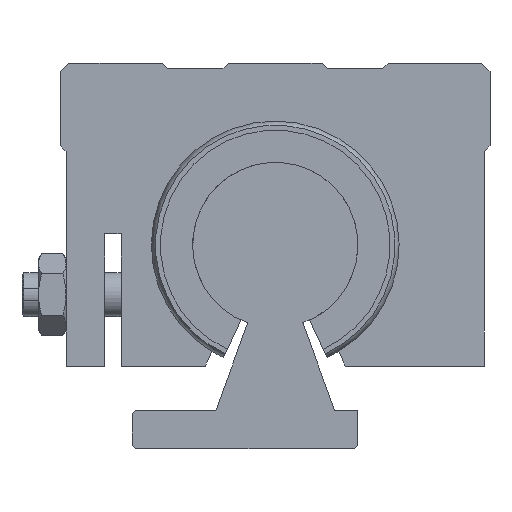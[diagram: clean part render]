
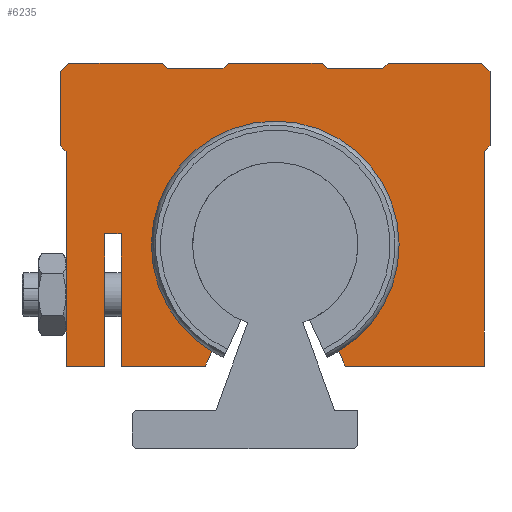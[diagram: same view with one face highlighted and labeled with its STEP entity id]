
A CAD part, left-side view. The second image highlights one B-rep face of the part: STEP entity #6235.
In plain terms, the highlighted planar face has unit normal (-1, 0, 0).
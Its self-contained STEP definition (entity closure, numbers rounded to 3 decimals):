
#4988=CARTESIAN_POINT('',(260.083,-11.5,17.661));
#4989=VERTEX_POINT('',#4988);
#4996=CARTESIAN_POINT('',(260.083,11.5,17.661));
#4997=VERTEX_POINT('',#4996);
#4998=CARTESIAN_POINT('',(260.083,0.0,37.0));
#4999=DIRECTION('',(-1.0,0.0,0.0));
#5000=DIRECTION('',(0.0,-1.0,0.0));
#5001=AXIS2_PLACEMENT_3D('',#4998,#4999,#5000);
#5002=CIRCLE('',#5001,22.5);
#5003=EDGE_CURVE('',#4989,#4997,#5002,.T.);
#5095=CARTESIAN_POINT('',(260.083,-8.5,70.0));
#5096=VERTEX_POINT('',#5095);
#5097=CARTESIAN_POINT('',(260.083,-9.5,69.0));
#5098=VERTEX_POINT('',#5097);
#5099=CARTESIAN_POINT('',(260.083,-8.5,70.0));
#5100=DIRECTION('',(0.0,-0.707,-0.707));
#5101=VECTOR('',#5100,1.414);
#5102=LINE('',#5099,#5101);
#5103=EDGE_CURVE('',#5096,#5098,#5102,.T.);
#5136=CARTESIAN_POINT('',(260.083,-19.5,69.0));
#5137=VERTEX_POINT('',#5136);
#5138=CARTESIAN_POINT('',(260.083,-9.5,69.0));
#5139=DIRECTION('',(0.0,-1.0,0.0));
#5140=VECTOR('',#5139,10.);
#5141=LINE('',#5138,#5140);
#5142=EDGE_CURVE('',#5098,#5137,#5141,.T.);
#5166=CARTESIAN_POINT('',(260.083,20.5,70.0));
#5167=VERTEX_POINT('',#5166);
#5168=CARTESIAN_POINT('',(260.083,19.5,69.0));
#5169=VERTEX_POINT('',#5168);
#5170=CARTESIAN_POINT('',(260.083,20.5,70.0));
#5171=DIRECTION('',(0.0,-0.707,-0.707));
#5172=VECTOR('',#5171,1.414);
#5173=LINE('',#5170,#5172);
#5174=EDGE_CURVE('',#5167,#5169,#5173,.T.);
#5207=CARTESIAN_POINT('',(260.083,9.5,69.0));
#5208=VERTEX_POINT('',#5207);
#5209=CARTESIAN_POINT('',(260.083,19.5,69.0));
#5210=DIRECTION('',(0.0,-1.0,0.0));
#5211=VECTOR('',#5210,10.);
#5212=LINE('',#5209,#5211);
#5213=EDGE_CURVE('',#5169,#5208,#5212,.T.);
#5237=CARTESIAN_POINT('',(260.083,8.5,70.0));
#5238=VERTEX_POINT('',#5237);
#5239=CARTESIAN_POINT('',(260.083,9.5,69.0));
#5240=DIRECTION('',(0.0,-0.707,0.707));
#5241=VECTOR('',#5240,1.414);
#5242=LINE('',#5239,#5241);
#5243=EDGE_CURVE('',#5208,#5238,#5242,.T.);
#5268=CARTESIAN_POINT('',(260.083,-20.5,70.0));
#5269=VERTEX_POINT('',#5268);
#5270=CARTESIAN_POINT('',(260.083,-19.5,69.0));
#5271=DIRECTION('',(0.0,-0.707,0.707));
#5272=VECTOR('',#5271,1.414);
#5273=LINE('',#5270,#5272);
#5274=EDGE_CURVE('',#5137,#5269,#5273,.T.);
#5299=CARTESIAN_POINT('',(260.083,38.,54.0));
#5300=VERTEX_POINT('',#5299);
#5301=CARTESIAN_POINT('',(260.083,39.0,55.0));
#5302=VERTEX_POINT('',#5301);
#5303=CARTESIAN_POINT('',(260.083,38.,54.0));
#5304=DIRECTION('',(0.0,0.707,0.707));
#5305=VECTOR('',#5304,1.414);
#5306=LINE('',#5303,#5305);
#5307=EDGE_CURVE('',#5300,#5302,#5306,.T.);
#5339=CARTESIAN_POINT('',(260.083,-39.0,55.0));
#5340=VERTEX_POINT('',#5339);
#5341=CARTESIAN_POINT('',(260.083,-38.,54.0));
#5342=VERTEX_POINT('',#5341);
#5343=CARTESIAN_POINT('',(260.083,-39.0,55.0));
#5344=DIRECTION('',(0.0,0.707,-0.707));
#5345=VECTOR('',#5344,1.414);
#5346=LINE('',#5343,#5345);
#5347=EDGE_CURVE('',#5340,#5342,#5346,.T.);
#5380=CARTESIAN_POINT('',(260.083,-38.0,15.0));
#5381=VERTEX_POINT('',#5380);
#5382=CARTESIAN_POINT('',(260.083,-38.,54.0));
#5383=DIRECTION('',(0.0,0.0,-1.0));
#5384=VECTOR('',#5383,39.0);
#5385=LINE('',#5382,#5384);
#5386=EDGE_CURVE('',#5342,#5381,#5385,.T.);
#5420=CARTESIAN_POINT('',(260.083,39.0,68.5));
#5421=VERTEX_POINT('',#5420);
#5428=CARTESIAN_POINT('',(260.083,37.5,70.));
#5429=VERTEX_POINT('',#5428);
#5430=CARTESIAN_POINT('',(260.083,39.0,68.5));
#5431=DIRECTION('',(0.0,-0.707,0.707));
#5432=VECTOR('',#5431,2.121);
#5433=LINE('',#5430,#5432);
#5434=EDGE_CURVE('',#5421,#5429,#5433,.T.);
#5458=CARTESIAN_POINT('',(260.083,39.0,55.0));
#5459=DIRECTION('',(0.0,0.0,1.0));
#5460=VECTOR('',#5459,13.5);
#5461=LINE('',#5458,#5460);
#5462=EDGE_CURVE('',#5302,#5421,#5461,.T.);
#5595=CARTESIAN_POINT('',(260.083,-37.5,70.));
#5596=VERTEX_POINT('',#5595);
#5603=CARTESIAN_POINT('',(260.083,-39.0,68.5));
#5604=VERTEX_POINT('',#5603);
#5605=CARTESIAN_POINT('',(260.083,-37.5,70.));
#5606=DIRECTION('',(0.0,-0.707,-0.707));
#5607=VECTOR('',#5606,2.121);
#5608=LINE('',#5605,#5607);
#5609=EDGE_CURVE('',#5596,#5604,#5608,.T.);
#5628=CARTESIAN_POINT('',(260.083,-20.5,70.0));
#5629=DIRECTION('',(0.0,-1.0,0.0));
#5630=VECTOR('',#5629,17.);
#5631=LINE('',#5628,#5630);
#5632=EDGE_CURVE('',#5269,#5596,#5631,.T.);
#5966=CARTESIAN_POINT('',(260.083,38.0,15.0));
#5967=VERTEX_POINT('',#5966);
#5974=CARTESIAN_POINT('',(260.083,38.0,15.0));
#5975=DIRECTION('',(0.0,0.0,1.0));
#5976=VECTOR('',#5975,39.0);
#5977=LINE('',#5974,#5976);
#5978=EDGE_CURVE('',#5967,#5300,#5977,.T.);
#5997=CARTESIAN_POINT('',(260.083,31.,15.));
#5998=VERTEX_POINT('',#5997);
#6005=CARTESIAN_POINT('',(260.083,31.,15.));
#6006=DIRECTION('',(0.0,1.0,0.0));
#6007=VECTOR('',#6006,7.);
#6008=LINE('',#6005,#6007);
#6009=EDGE_CURVE('',#5998,#5967,#6008,.T.);
#6021=CARTESIAN_POINT('',(260.083,31.,39.));
#6022=VERTEX_POINT('',#6021);
#6029=CARTESIAN_POINT('',(260.083,31.,39.));
#6030=DIRECTION('',(0.0,0.0,-1.0));
#6031=VECTOR('',#6030,24.);
#6032=LINE('',#6029,#6031);
#6033=EDGE_CURVE('',#6022,#5998,#6032,.T.);
#6048=CARTESIAN_POINT('',(260.083,28.,39.));
#6049=VERTEX_POINT('',#6048);
#6056=CARTESIAN_POINT('',(260.083,28.,39.));
#6057=DIRECTION('',(0.0,1.0,0.0));
#6058=VECTOR('',#6057,3.);
#6059=LINE('',#6056,#6058);
#6060=EDGE_CURVE('',#6049,#6022,#6059,.T.);
#6072=CARTESIAN_POINT('',(260.083,28.,15.));
#6073=VERTEX_POINT('',#6072);
#6080=CARTESIAN_POINT('',(260.083,28.,15.));
#6081=DIRECTION('',(0.0,0.0,1.0));
#6082=VECTOR('',#6081,24.);
#6083=LINE('',#6080,#6082);
#6084=EDGE_CURVE('',#6073,#6049,#6083,.T.);
#6099=CARTESIAN_POINT('',(260.083,12.741,15.));
#6100=VERTEX_POINT('',#6099);
#6107=CARTESIAN_POINT('',(260.083,12.741,15.));
#6108=DIRECTION('',(0.0,1.0,0.0));
#6109=VECTOR('',#6108,15.259);
#6110=LINE('',#6107,#6109);
#6111=EDGE_CURVE('',#6100,#6073,#6110,.T.);
#6130=CARTESIAN_POINT('',(260.083,11.5,17.661));
#6131=DIRECTION('',(0.0,0.423,-0.906));
#6132=VECTOR('',#6131,2.936);
#6133=LINE('',#6130,#6132);
#6134=EDGE_CURVE('',#4997,#6100,#6133,.T.);
#6146=CARTESIAN_POINT('',(260.083,-12.741,15.));
#6147=VERTEX_POINT('',#6146);
#6154=CARTESIAN_POINT('',(260.083,-12.741,15.));
#6155=DIRECTION('',(0.0,0.423,0.906));
#6156=VECTOR('',#6155,2.936);
#6157=LINE('',#6154,#6156);
#6158=EDGE_CURVE('',#6147,#4989,#6157,.T.);
#6177=CARTESIAN_POINT('',(260.083,-38.0,15.0));
#6178=DIRECTION('',(0.0,1.0,0.0));
#6179=VECTOR('',#6178,25.259);
#6180=LINE('',#6177,#6179);
#6181=EDGE_CURVE('',#5381,#6147,#6180,.T.);
#6187=CARTESIAN_POINT('',(260.083,3.457,41.113));
#6188=DIRECTION('',(1.0,0.0,0.0));
#6189=DIRECTION('',(0.0,0.0,-1.0));
#6190=AXIS2_PLACEMENT_3D('',#6187,#6188,#6189);
#6191=PLANE('',#6190);
#6192=ORIENTED_EDGE('',*,*,#5434,.F.);
#6193=ORIENTED_EDGE('',*,*,#5462,.F.);
#6194=ORIENTED_EDGE('',*,*,#5307,.F.);
#6195=ORIENTED_EDGE('',*,*,#5978,.F.);
#6196=ORIENTED_EDGE('',*,*,#6009,.F.);
#6197=ORIENTED_EDGE('',*,*,#6033,.F.);
#6198=ORIENTED_EDGE('',*,*,#6060,.F.);
#6199=ORIENTED_EDGE('',*,*,#6084,.F.);
#6200=ORIENTED_EDGE('',*,*,#6111,.F.);
#6201=ORIENTED_EDGE('',*,*,#6134,.F.);
#6202=ORIENTED_EDGE('',*,*,#5003,.F.);
#6203=ORIENTED_EDGE('',*,*,#6158,.F.);
#6204=ORIENTED_EDGE('',*,*,#6181,.F.);
#6205=ORIENTED_EDGE('',*,*,#5386,.F.);
#6206=ORIENTED_EDGE('',*,*,#5347,.F.);
#6207=CARTESIAN_POINT('',(260.083,-39.0,68.5));
#6208=DIRECTION('',(0.0,0.0,-1.0));
#6209=VECTOR('',#6208,13.5);
#6210=LINE('',#6207,#6209);
#6211=EDGE_CURVE('',#5604,#5340,#6210,.T.);
#6212=ORIENTED_EDGE('',*,*,#6211,.F.);
#6213=ORIENTED_EDGE('',*,*,#5609,.F.);
#6214=ORIENTED_EDGE('',*,*,#5632,.F.);
#6215=ORIENTED_EDGE('',*,*,#5274,.F.);
#6216=ORIENTED_EDGE('',*,*,#5142,.F.);
#6217=ORIENTED_EDGE('',*,*,#5103,.F.);
#6218=CARTESIAN_POINT('',(260.083,8.5,70.0));
#6219=DIRECTION('',(0.0,-1.0,0.0));
#6220=VECTOR('',#6219,17.0);
#6221=LINE('',#6218,#6220);
#6222=EDGE_CURVE('',#5238,#5096,#6221,.T.);
#6223=ORIENTED_EDGE('',*,*,#6222,.F.);
#6224=ORIENTED_EDGE('',*,*,#5243,.F.);
#6225=ORIENTED_EDGE('',*,*,#5213,.F.);
#6226=ORIENTED_EDGE('',*,*,#5174,.F.);
#6227=CARTESIAN_POINT('',(260.083,37.5,70.));
#6228=DIRECTION('',(0.0,-1.0,0.0));
#6229=VECTOR('',#6228,17.);
#6230=LINE('',#6227,#6229);
#6231=EDGE_CURVE('',#5429,#5167,#6230,.T.);
#6232=ORIENTED_EDGE('',*,*,#6231,.F.);
#6233=EDGE_LOOP('',(#6192,#6193,#6194,#6195,#6196,#6197,#6198,#6199,#6200,#6201,#6202,#6203,#6204,#6205,#6206,#6212,#6213,#6214,#6215,#6216,#6217,#6223,#6224,#6225,#6226,#6232));
#6234=FACE_OUTER_BOUND('',#6233,.T.);
#6235=ADVANCED_FACE('',(#6234),#6191,.F.);
